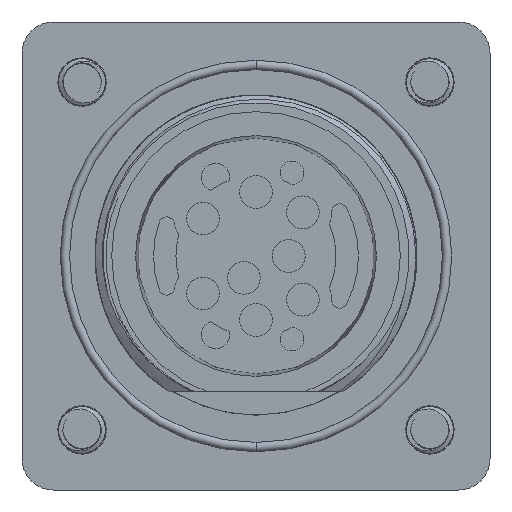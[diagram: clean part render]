
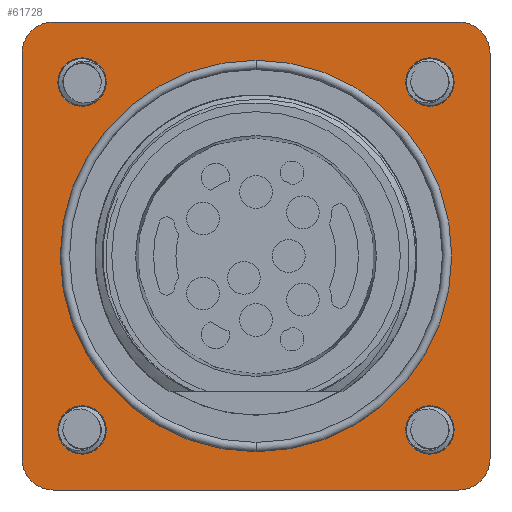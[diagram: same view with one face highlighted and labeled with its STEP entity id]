
A CAD part, left-side view. The second image highlights one B-rep face of the part: STEP entity #61728.
In plain terms, the highlighted planar face has unit normal (-1, 0, 0).
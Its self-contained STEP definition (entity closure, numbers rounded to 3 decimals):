
#15723=CARTESIAN_POINT('',(-19.8,13.,-13.));
#15724=DIRECTION('',(-1.,0.,0.));
#15725=DIRECTION('',(0.,1.,0.));
#15726=AXIS2_PLACEMENT_3D('',#15723,#15724,#15725);
#15728=DIRECTION('',(0.,0.,1.));
#15729=VECTOR('',#15728,26.);
#15730=CARTESIAN_POINT('',(-19.8,15.,-13.));
#15731=LINE('',#15730,#15729);
#15732=CARTESIAN_POINT('',(-19.8,13.,13.));
#15733=DIRECTION('',(-1.,0.,0.));
#15734=DIRECTION('',(0.,0.,1.));
#15735=AXIS2_PLACEMENT_3D('',#15732,#15733,#15734);
#15737=DIRECTION('',(0.,-1.,0.));
#15738=VECTOR('',#15737,26.);
#15739=CARTESIAN_POINT('',(-19.8,13.,15.));
#15740=LINE('',#15739,#15738);
#15741=CARTESIAN_POINT('',(-19.8,-13.,13.));
#15742=DIRECTION('',(-1.,0.,0.));
#15743=DIRECTION('',(0.,-1.,0.));
#15744=AXIS2_PLACEMENT_3D('',#15741,#15742,#15743);
#15746=DIRECTION('',(0.,0.,-1.));
#15747=VECTOR('',#15746,26.);
#15748=CARTESIAN_POINT('',(-19.8,-15.,13.));
#15749=LINE('',#15748,#15747);
#15750=CARTESIAN_POINT('',(-19.8,-13.,-13.));
#15751=DIRECTION('',(-1.,0.,0.));
#15752=DIRECTION('',(0.,0.,-1.));
#15753=AXIS2_PLACEMENT_3D('',#15750,#15751,#15752);
#15755=DIRECTION('',(0.,1.,0.));
#15756=VECTOR('',#15755,26.);
#15757=CARTESIAN_POINT('',(-19.8,-13.,-15.));
#15758=LINE('',#15757,#15756);
#15759=CARTESIAN_POINT('',(-19.8,11.15,11.15));
#15760=DIRECTION('',(-1.,0.,0.));
#15761=DIRECTION('',(0.,0.,-1.));
#15762=AXIS2_PLACEMENT_3D('',#15759,#15760,#15761);
#15764=CARTESIAN_POINT('',(-19.8,11.15,11.15));
#15765=DIRECTION('',(-1.,0.,0.));
#15766=DIRECTION('',(0.,0.,1.));
#15767=AXIS2_PLACEMENT_3D('',#15764,#15765,#15766);
#15769=CARTESIAN_POINT('',(-19.8,11.15,-11.15));
#15770=DIRECTION('',(-1.,0.,0.));
#15771=DIRECTION('',(0.,0.,-1.));
#15772=AXIS2_PLACEMENT_3D('',#15769,#15770,#15771);
#15774=CARTESIAN_POINT('',(-19.8,11.15,-11.15));
#15775=DIRECTION('',(-1.,0.,0.));
#15776=DIRECTION('',(0.,0.,1.));
#15777=AXIS2_PLACEMENT_3D('',#15774,#15775,#15776);
#15779=CARTESIAN_POINT('',(-19.8,-11.15,-11.15));
#15780=DIRECTION('',(-1.,0.,0.));
#15781=DIRECTION('',(0.,0.,-1.));
#15782=AXIS2_PLACEMENT_3D('',#15779,#15780,#15781);
#15784=CARTESIAN_POINT('',(-19.8,-11.15,-11.15));
#15785=DIRECTION('',(-1.,0.,0.));
#15786=DIRECTION('',(0.,0.,1.));
#15787=AXIS2_PLACEMENT_3D('',#15784,#15785,#15786);
#15789=CARTESIAN_POINT('',(-19.8,-11.15,11.15));
#15790=DIRECTION('',(-1.,0.,0.));
#15791=DIRECTION('',(0.,0.,-1.));
#15792=AXIS2_PLACEMENT_3D('',#15789,#15790,#15791);
#15794=CARTESIAN_POINT('',(-19.8,-11.15,11.15));
#15795=DIRECTION('',(-1.,0.,0.));
#15796=DIRECTION('',(0.,0.,1.));
#15797=AXIS2_PLACEMENT_3D('',#15794,#15795,#15796);
#15799=CARTESIAN_POINT('',(-19.8,0.,0.));
#15800=DIRECTION('',(1.,0.,0.));
#15801=DIRECTION('',(0.,0.,1.));
#15802=AXIS2_PLACEMENT_3D('',#15799,#15800,#15801);
#15804=CARTESIAN_POINT('',(-19.8,0.,0.));
#15805=DIRECTION('',(1.,0.,0.));
#15806=DIRECTION('',(0.,0.,-1.));
#15807=AXIS2_PLACEMENT_3D('',#15804,#15805,#15806);
#45392=CARTESIAN_POINT('',(-19.8,11.15,9.6));
#45393=CARTESIAN_POINT('',(-19.8,11.15,12.7));
#45394=VERTEX_POINT('',#45392);
#45395=VERTEX_POINT('',#45393);
#45400=CARTESIAN_POINT('',(-19.8,11.15,-12.7));
#45401=CARTESIAN_POINT('',(-19.8,11.15,-9.6));
#45402=VERTEX_POINT('',#45400);
#45403=VERTEX_POINT('',#45401);
#45404=CARTESIAN_POINT('',(-19.8,-11.15,-12.7));
#45405=CARTESIAN_POINT('',(-19.8,-11.15,-9.6));
#45406=VERTEX_POINT('',#45404);
#45407=VERTEX_POINT('',#45405);
#45408=CARTESIAN_POINT('',(-19.8,-11.15,9.6));
#45409=CARTESIAN_POINT('',(-19.8,-11.15,12.7));
#45410=VERTEX_POINT('',#45408);
#45411=VERTEX_POINT('',#45409);
#45424=CARTESIAN_POINT('',(-19.8,0.,12.55));
#45425=CARTESIAN_POINT('',(-19.8,0.,-12.55));
#45426=VERTEX_POINT('',#45424);
#45427=VERTEX_POINT('',#45425);
#45440=CARTESIAN_POINT('',(-19.8,15.,-13.));
#45441=CARTESIAN_POINT('',(-19.8,13.,-15.));
#45442=VERTEX_POINT('',#45440);
#45443=VERTEX_POINT('',#45441);
#45448=CARTESIAN_POINT('',(-19.8,-13.,-15.));
#45449=CARTESIAN_POINT('',(-19.8,-15.,-13.));
#45450=VERTEX_POINT('',#45448);
#45451=VERTEX_POINT('',#45449);
#45456=CARTESIAN_POINT('',(-19.8,-15.,13.));
#45457=CARTESIAN_POINT('',(-19.8,-13.,15.));
#45458=VERTEX_POINT('',#45456);
#45459=VERTEX_POINT('',#45457);
#45464=CARTESIAN_POINT('',(-19.8,13.,15.));
#45465=CARTESIAN_POINT('',(-19.8,15.,13.));
#45466=VERTEX_POINT('',#45464);
#45467=VERTEX_POINT('',#45465);
#61676=CARTESIAN_POINT('',(-19.8,0.,0.));
#61677=DIRECTION('',(1.,0.,0.));
#61678=DIRECTION('',(0.,0.,-1.));
#61679=AXIS2_PLACEMENT_3D('',#61676,#61677,#61678);
#61680=PLANE('',#61679);
#61682=ORIENTED_EDGE('',*,*,#61681,.F.);
#61684=ORIENTED_EDGE('',*,*,#61683,.T.);
#61686=ORIENTED_EDGE('',*,*,#61685,.F.);
#61688=ORIENTED_EDGE('',*,*,#61687,.T.);
#61690=ORIENTED_EDGE('',*,*,#61689,.F.);
#61692=ORIENTED_EDGE('',*,*,#61691,.T.);
#61694=ORIENTED_EDGE('',*,*,#61693,.F.);
#61696=ORIENTED_EDGE('',*,*,#61695,.T.);
#61697=EDGE_LOOP('',(#61682,#61684,#61686,#61688,#61690,#61692,#61694,#61696));
#61698=FACE_OUTER_BOUND('',#61697,.F.);
#61700=ORIENTED_EDGE('',*,*,#61699,.T.);
#61702=ORIENTED_EDGE('',*,*,#61701,.T.);
#61703=EDGE_LOOP('',(#61700,#61702));
#61704=FACE_BOUND('',#61703,.F.);
#61706=ORIENTED_EDGE('',*,*,#61705,.T.);
#61708=ORIENTED_EDGE('',*,*,#61707,.T.);
#61709=EDGE_LOOP('',(#61706,#61708));
#61710=FACE_BOUND('',#61709,.F.);
#61712=ORIENTED_EDGE('',*,*,#61711,.T.);
#61714=ORIENTED_EDGE('',*,*,#61713,.T.);
#61715=EDGE_LOOP('',(#61712,#61714));
#61716=FACE_BOUND('',#61715,.F.);
#61718=ORIENTED_EDGE('',*,*,#61717,.T.);
#61720=ORIENTED_EDGE('',*,*,#61719,.T.);
#61721=EDGE_LOOP('',(#61718,#61720));
#61722=FACE_BOUND('',#61721,.F.);
#61723=ORIENTED_EDGE('',*,*,#61666,.F.);
#61725=ORIENTED_EDGE('',*,*,#61724,.F.);
#61726=EDGE_LOOP('',(#61723,#61725));
#61727=FACE_BOUND('',#61726,.F.);
#61728=ADVANCED_FACE('',(#61698,#61704,#61710,#61716,#61722,#61727),#61680,.F.);
#15727=CIRCLE('',#15726,2.);
#15736=CIRCLE('',#15735,2.);
#15745=CIRCLE('',#15744,2.);
#15754=CIRCLE('',#15753,2.);
#15763=CIRCLE('',#15762,1.55);
#15768=CIRCLE('',#15767,1.55);
#15773=CIRCLE('',#15772,1.55);
#15778=CIRCLE('',#15777,1.55);
#15783=CIRCLE('',#15782,1.55);
#15788=CIRCLE('',#15787,1.55);
#15793=CIRCLE('',#15792,1.55);
#15798=CIRCLE('',#15797,1.55);
#15803=CIRCLE('',#15802,12.55);
#15808=CIRCLE('',#15807,12.55);
#61666=EDGE_CURVE('',#45426,#45427,#15803,.T.);
#61681=EDGE_CURVE('',#45442,#45443,#15727,.T.);
#61683=EDGE_CURVE('',#45442,#45467,#15731,.T.);
#61685=EDGE_CURVE('',#45466,#45467,#15736,.T.);
#61687=EDGE_CURVE('',#45466,#45459,#15740,.T.);
#61689=EDGE_CURVE('',#45458,#45459,#15745,.T.);
#61691=EDGE_CURVE('',#45458,#45451,#15749,.T.);
#61693=EDGE_CURVE('',#45450,#45451,#15754,.T.);
#61695=EDGE_CURVE('',#45450,#45443,#15758,.T.);
#61699=EDGE_CURVE('',#45394,#45395,#15763,.T.);
#61701=EDGE_CURVE('',#45395,#45394,#15768,.T.);
#61705=EDGE_CURVE('',#45402,#45403,#15773,.T.);
#61707=EDGE_CURVE('',#45403,#45402,#15778,.T.);
#61711=EDGE_CURVE('',#45406,#45407,#15783,.T.);
#61713=EDGE_CURVE('',#45407,#45406,#15788,.T.);
#61717=EDGE_CURVE('',#45410,#45411,#15793,.T.);
#61719=EDGE_CURVE('',#45411,#45410,#15798,.T.);
#61724=EDGE_CURVE('',#45427,#45426,#15808,.T.);
